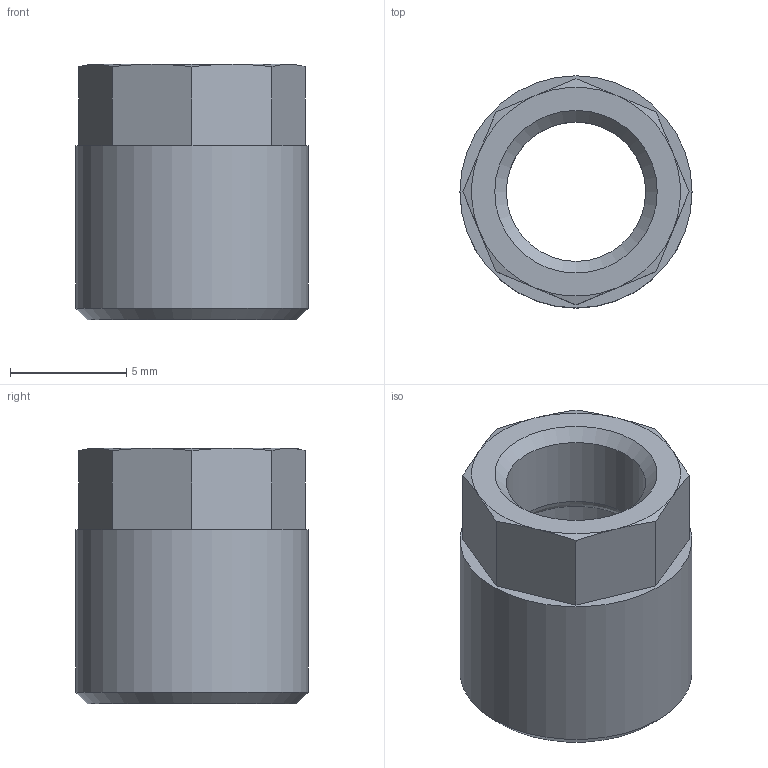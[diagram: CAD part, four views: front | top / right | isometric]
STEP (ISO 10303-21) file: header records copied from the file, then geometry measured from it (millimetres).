
FILE_DESCRIPTION(/* description */ (''),/* implementation_level */ '2;1');
FILE_NAME(/* name */ '17004_310_64_M8X0,75_15.08.17',/* time_stamp */ '2017-08-15T09:58:37+02:00',/* author */ (''),/* organization */ (''),/* preprocessor_version */ 'ST-DEVELOPER v16.5',/* originating_system */ 'HiCAD 2016 2102.2 Build 618',/* authorisation */ '');
FILE_SCHEMA (('AUTOMOTIVE_DESIGN { 1 0 10303 214 1 1 1 1 }'));
Length unit declared in the file: millimetre
Products named in the file (2): Root; 17004
Assembly tree (1 placements, depth 2):
  Root
    17004
Bounding box: 10 x 10 x 11 mm (x, y, z)
Volume: 426.2 mm3; surface area: 644 mm2
Topology: 1 solids, 1 shells, 27 faces, 62 edges, 38 vertices
Faces by surface type: cone 12, plane 11, cylinder 3, torus 1
Full cylindrical faces by diameter (mm): 6 x1, 7.08 x1, 10 x1
Entity records: 1234 total; most frequent: DIRECTION 142, CARTESIAN_POINT 113, PRESENTATION_STYLE_ASSIGNMENT 101, COLOUR_RGB 101, DRAUGHTING_PRE_DEFINED_CURVE_FONT 100, CURVE_STYLE 100, OVER_RIDING_STYLED_ITEM 100, ORIENTED_EDGE 100
